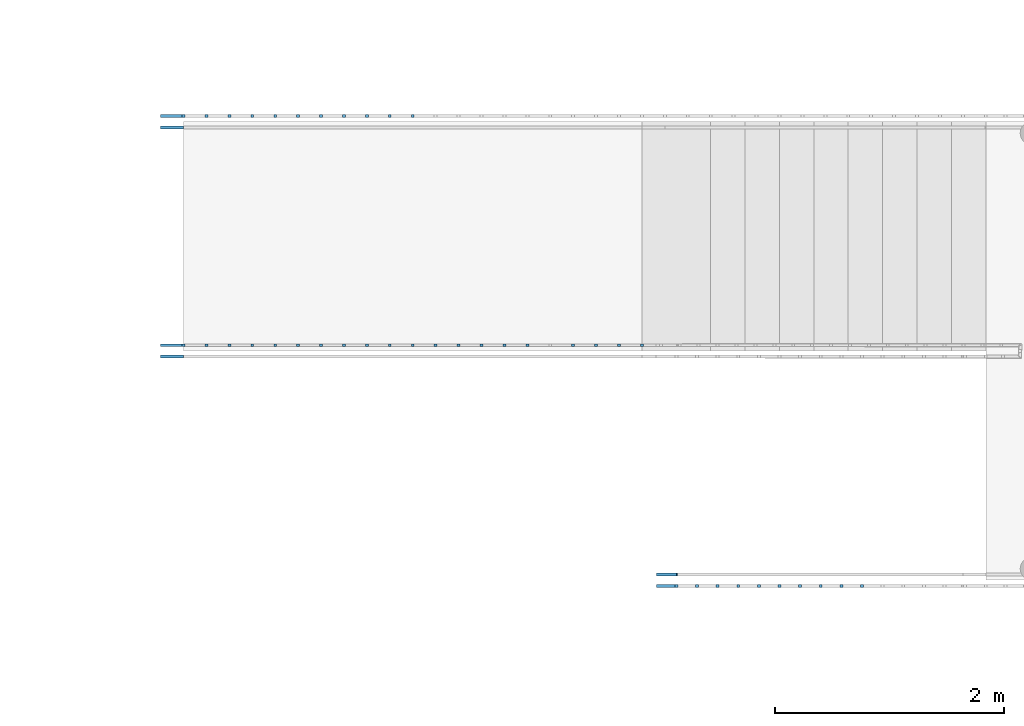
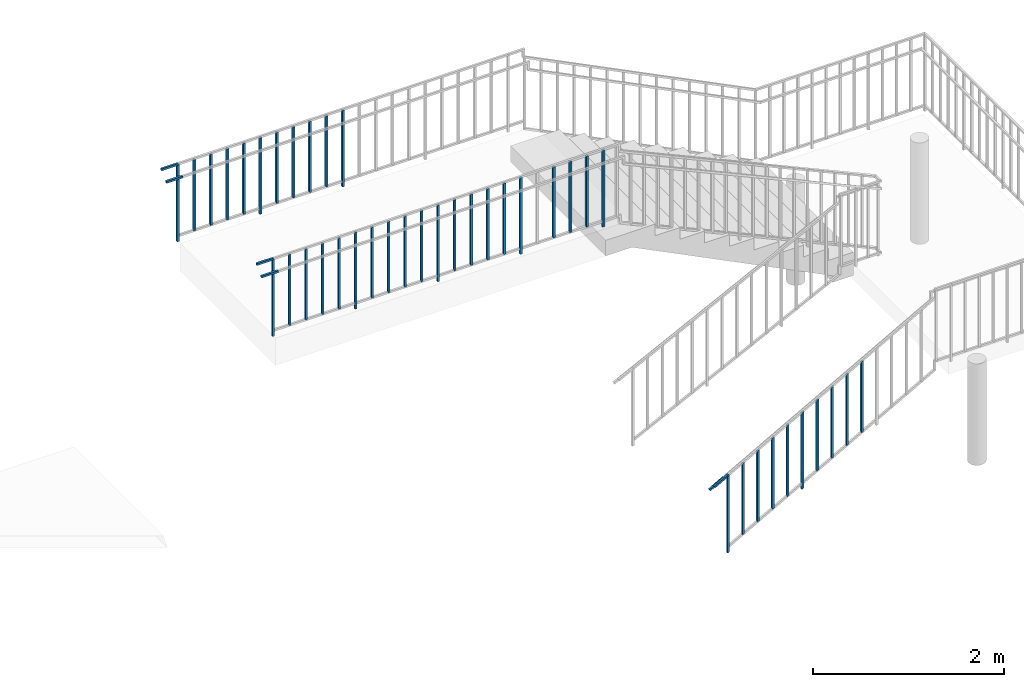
# One storey, part 16 of 19: 47 building element parts, 2 elements without a shape of their own.
"""IFC4 building model written with IfcOpenShell, lengths in millimetres."""

from ifc_helpers import new_model, entity, si_unit, converted_unit, derived_unit, direction, frame, origin_with_axes, place, context, subcontext, project, spatial, triangles, material, element, aggregate, save


model = new_model("IFC4")

# Units and contexts
model_context = context("Model", 3, precision=1e-05, world=origin_with_axes(), true_north=direction((0.0, 1.0)))
body_context = subcontext(model_context, "Body", "Model", "MODEL_VIEW")
ifc_project = project(units=[si_unit("LENGTHUNIT", "METRE", prefix="MILLI"), si_unit("AREAUNIT", "SQUARE_METRE"), si_unit("VOLUMEUNIT", "CUBIC_METRE"), converted_unit("PLANEANGLEUNIT", "DEGREE", entity("IfcLengthMeasure", 0.017453), si_unit("PLANEANGLEUNIT", "RADIAN"), dimensions=[0, 0, 0, 0, 0, 0, 0]), si_unit("SOLIDANGLEUNIT", "STERADIAN"), si_unit("MASSUNIT", "GRAM"), si_unit("TIMEUNIT", "SECOND"), si_unit("THERMODYNAMICTEMPERATUREUNIT", "DEGREE_CELSIUS"), si_unit("LUMINOUSINTENSITYUNIT", "LUMEN"), si_unit("POWERUNIT", "WATT"), derived_unit("THERMALTRANSMITTANCEUNIT", [(si_unit("POWERUNIT", "WATT"), 1), (si_unit("THERMODYNAMICTEMPERATUREUNIT", "KELVIN"), -1), (si_unit("AREAUNIT", "SQUARE_METRE"), -1)])], contexts=[model_context])

# Site, building, storey
site_placement = place(None, origin_with_axes())
site = spatial("IfcSite", under=ifc_project, at=site_placement, Name="Default Site", CompositionType="ELEMENT")
building_placement = place(site_placement, origin_with_axes())
building = spatial("IfcBuilding", under=site, at=building_placement, Name="Default Building", CompositionType="ELEMENT")
storey_placement = place(building_placement, frame((0.0, 0.0, 3000.0), z_axis=(0.0, 0.0, 1.0), x_axis=(1.0, 0.0, 0.0)))
storey = spatial("IfcBuildingStorey", under=building, at=storey_placement, Name="EG - Story", CompositionType="ELEMENT", Elevation=3000.0)

# Railing, building element parts
railing_1_placement = place(storey_placement, origin_with_axes())
railing_1 = element("IfcRailing", 1, at=railing_1_placement, inside=storey, Name="Geländer - 001", PredefinedType="NOTDEFINED")
ifc_material = material(Name="Bekleidung")
building_element_part_1_placement = place(railing_1_placement, frame((84051.391327, -29589.262838, -3000.0), z_axis=(0.0, 0.0, 1.0), x_axis=(1.0, 0.0, 0.0)))
building_element_part_1 = element("IfcBuildingElementPart", 2, at=building_element_part_1_placement, material=ifc_material, Name="Bekleidung", PredefinedType="NOTDEFINED", context=body_context, shape_type="Tessellation", body=[
    triangles([(-312.499, 62.5, 3000.0), (-312.499, 37.5, 3000.0), (-312.499, 37.5, 3982.708), (-312.499, 62.5, 3982.708), (-287.499, 62.5, 3000.0), (-287.499, 37.5, 3000.0), (-287.499, 37.5, 3977.292), (-287.499, 62.5, 3977.292)], [[1, 2, 3], [1, 3, 4], [1, 5, 6], [1, 6, 2], [2, 6, 7], [2, 7, 3], [4, 3, 7], [4, 7, 8], [5, 1, 4], [5, 4, 8], [6, 5, 8], [6, 8, 7]], closed=False),
])
building_element_part_2_placement = place(railing_1_placement, frame((84051.391327, -29589.262838, -3000.0), z_axis=(0.0, 0.0, 1.0), x_axis=(1.0, 0.0, 0.0)))
building_element_part_2 = element("IfcBuildingElementPart", 3, at=building_element_part_2_placement, material=ifc_material, Name="Bekleidung", PredefinedType="NOTDEFINED", context=body_context, shape_type="Tessellation", body=[
    triangles([(-4312.499, 62.5, 3000.0), (-4312.499, 37.5, 3000.0), (-4312.499, 37.5, 3980.0), (-4312.499, 62.5, 3980.0), (-4287.499, 62.5, 3000.0), (-4287.499, 37.5, 3000.0), (-4287.499, 37.5, 3980.0), (-4287.499, 62.5, 3980.0)], [[1, 2, 3], [1, 3, 4], [1, 5, 6], [1, 6, 2], [2, 6, 7], [2, 7, 3], [4, 3, 7], [4, 7, 8], [5, 1, 4], [5, 4, 8], [6, 5, 8], [6, 8, 7]], closed=False),
])
building_element_part_3_placement = place(railing_1_placement, frame((84051.391327, -29589.262838, -3000.0), z_axis=(0.0, 0.0, 1.0), x_axis=(1.0, 0.0, 0.0)))
building_element_part_3 = element("IfcBuildingElementPart", 4, at=building_element_part_3_placement, material=ifc_material, Name="Bekleidung", PredefinedType="NOTDEFINED", context=body_context, shape_type="Tessellation", body=[
    triangles([(-4299.999, -37.499, 3900.0), (-4299.999, -37.499, 3875.0), (-4499.999, -37.499, 3875.0), (-4499.999, -37.499, 3900.0), (-4299.999, -62.499, 3900.0), (-4299.999, -62.499, 3875.0), (-4499.999, -62.499, 3875.0), (-4499.999, -62.499, 3900.0)], [[1, 2, 3], [1, 3, 4], [1, 5, 6], [1, 6, 2], [2, 6, 7], [2, 7, 3], [4, 3, 7], [4, 7, 8], [5, 1, 4], [5, 4, 8], [6, 5, 8], [6, 8, 7]], closed=False),
])
building_element_part_4_placement = place(railing_1_placement, frame((84051.391327, -29589.262838, -3000.0), z_axis=(0.0, 0.0, 1.0), x_axis=(1.0, 0.0, 0.0)))
building_element_part_4 = element("IfcBuildingElementPart", 5, at=building_element_part_4_placement, material=ifc_material, Name="Bekleidung", PredefinedType="NOTDEFINED", context=body_context, shape_type="Tessellation", body=[
    triangles([(-4299.999, 62.5, 4000.0), (-4299.999, 62.5, 3975.0), (-4499.999, 62.5, 3975.0), (-4499.999, 62.5, 4000.0), (-4299.999, 37.5, 4000.0), (-4299.999, 37.5, 3975.0), (-4499.999, 37.5, 3975.0), (-4499.999, 37.5, 4000.0)], [[1, 2, 3], [1, 3, 4], [1, 5, 6], [1, 6, 2], [2, 6, 7], [2, 7, 3], [4, 3, 7], [4, 7, 8], [5, 1, 4], [5, 4, 8], [6, 5, 8], [6, 8, 7]], closed=False),
])
building_element_part_5_placement = place(railing_1_placement, frame((84051.391327, -29589.262838, -3000.0), z_axis=(0.0, 0.0, 1.0), x_axis=(1.0, 0.0, 0.0)))
building_element_part_5 = element("IfcBuildingElementPart", 6, at=building_element_part_5_placement, material=ifc_material, Name="Bekleidung", PredefinedType="NOTDEFINED", context=body_context, shape_type="Tessellation", body=[
    triangles([(-512.499, 62.5, 3070.0), (-512.499, 37.5, 3070.0), (-512.499, 37.5, 3977.5), (-512.499, 62.5, 3977.5), (-487.499, 62.5, 3070.0), (-487.499, 37.5, 3070.0), (-487.499, 37.5, 3977.5), (-487.499, 62.5, 3977.5)], [[1, 2, 3], [1, 3, 4], [1, 5, 6], [1, 6, 2], [2, 6, 7], [2, 7, 3], [4, 3, 7], [4, 7, 8], [5, 1, 4], [5, 4, 8], [6, 5, 8], [6, 8, 7]], closed=False),
])
building_element_part_6_placement = place(railing_1_placement, frame((84051.391327, -29589.262838, -3000.0), z_axis=(0.0, 0.0, 1.0), x_axis=(1.0, 0.0, 0.0)))
building_element_part_6 = element("IfcBuildingElementPart", 7, at=building_element_part_6_placement, material=ifc_material, Name="Bekleidung", PredefinedType="NOTDEFINED", context=body_context, shape_type="Tessellation", body=[
    triangles([(-712.499, 62.5, 3070.0), (-712.499, 37.5, 3070.0), (-712.499, 37.5, 3977.5), (-712.499, 62.5, 3977.5), (-687.499, 62.5, 3070.0), (-687.499, 37.5, 3070.0), (-687.499, 37.5, 3977.5), (-687.499, 62.5, 3977.5)], [[1, 2, 3], [1, 3, 4], [1, 5, 6], [1, 6, 2], [2, 6, 7], [2, 7, 3], [4, 3, 7], [4, 7, 8], [5, 1, 4], [5, 4, 8], [6, 5, 8], [6, 8, 7]], closed=False),
])
building_element_part_7_placement = place(railing_1_placement, frame((84051.391327, -29589.262838, -3000.0), z_axis=(0.0, 0.0, 1.0), x_axis=(1.0, 0.0, 0.0)))
building_element_part_7 = element("IfcBuildingElementPart", 8, at=building_element_part_7_placement, material=ifc_material, Name="Bekleidung", PredefinedType="NOTDEFINED", context=body_context, shape_type="Tessellation", body=[
    triangles([(-912.499, 62.5, 3070.0), (-912.499, 37.5, 3070.0), (-912.499, 37.5, 3977.5), (-912.499, 62.5, 3977.5), (-887.499, 62.5, 3070.0), (-887.499, 37.5, 3070.0), (-887.499, 37.5, 3977.5), (-887.499, 62.5, 3977.5)], [[1, 2, 3], [1, 3, 4], [1, 5, 6], [1, 6, 2], [2, 6, 7], [2, 7, 3], [4, 3, 7], [4, 7, 8], [5, 1, 4], [5, 4, 8], [6, 5, 8], [6, 8, 7]], closed=False),
])
building_element_part_8_placement = place(railing_1_placement, frame((84051.391327, -29589.262838, -3000.0), z_axis=(0.0, 0.0, 1.0), x_axis=(1.0, 0.0, 0.0)))
building_element_part_8 = element("IfcBuildingElementPart", 9, at=building_element_part_8_placement, material=ifc_material, Name="Bekleidung", PredefinedType="NOTDEFINED", context=body_context, shape_type="Tessellation", body=[
    triangles([(-1312.499, 62.5, 3000.0), (-1312.499, 37.5, 3000.0), (-1312.499, 37.5, 3980.0), (-1312.499, 62.5, 3980.0), (-1287.499, 62.5, 3000.0), (-1287.499, 37.5, 3000.0), (-1287.499, 37.5, 3980.0), (-1287.499, 62.5, 3980.0)], [[1, 2, 3], [1, 3, 4], [1, 5, 6], [1, 6, 2], [2, 6, 7], [2, 7, 3], [4, 3, 7], [4, 7, 8], [5, 1, 4], [5, 4, 8], [6, 5, 8], [6, 8, 7]], closed=False),
])
building_element_part_9_placement = place(railing_1_placement, frame((84051.391327, -29589.262838, -3000.0), z_axis=(0.0, 0.0, 1.0), x_axis=(1.0, 0.0, 0.0)))
building_element_part_9 = element("IfcBuildingElementPart", 10, at=building_element_part_9_placement, material=ifc_material, Name="Bekleidung", PredefinedType="NOTDEFINED", context=body_context, shape_type="Tessellation", body=[
    triangles([(-1512.499, 62.5, 3070.0), (-1512.499, 37.5, 3070.0), (-1512.499, 37.5, 3977.5), (-1512.499, 62.5, 3977.5), (-1487.499, 62.5, 3070.0), (-1487.499, 37.5, 3070.0), (-1487.499, 37.5, 3977.5), (-1487.499, 62.5, 3977.5)], [[1, 2, 3], [1, 3, 4], [1, 5, 6], [1, 6, 2], [2, 6, 7], [2, 7, 3], [4, 3, 7], [4, 7, 8], [5, 1, 4], [5, 4, 8], [6, 5, 8], [6, 8, 7]], closed=False),
])
building_element_part_10_placement = place(railing_1_placement, frame((84051.391327, -29589.262838, -3000.0), z_axis=(0.0, 0.0, 1.0), x_axis=(1.0, 0.0, 0.0)))
building_element_part_10 = element("IfcBuildingElementPart", 11, at=building_element_part_10_placement, material=ifc_material, Name="Bekleidung", PredefinedType="NOTDEFINED", context=body_context, shape_type="Tessellation", body=[
    triangles([(-1712.499, 62.5, 3070.0), (-1712.499, 37.5, 3070.0), (-1712.499, 37.5, 3977.5), (-1712.499, 62.5, 3977.5), (-1687.499, 62.5, 3070.0), (-1687.499, 37.5, 3070.0), (-1687.499, 37.5, 3977.5), (-1687.499, 62.5, 3977.5)], [[1, 2, 3], [1, 3, 4], [1, 5, 6], [1, 6, 2], [2, 6, 7], [2, 7, 3], [4, 3, 7], [4, 7, 8], [5, 1, 4], [5, 4, 8], [6, 5, 8], [6, 8, 7]], closed=False),
])
building_element_part_11_placement = place(railing_1_placement, frame((84051.391327, -29589.262838, -3000.0), z_axis=(0.0, 0.0, 1.0), x_axis=(1.0, 0.0, 0.0)))
building_element_part_11 = element("IfcBuildingElementPart", 12, at=building_element_part_11_placement, material=ifc_material, Name="Bekleidung", PredefinedType="NOTDEFINED", context=body_context, shape_type="Tessellation", body=[
    triangles([(-1912.499, 62.5, 3070.0), (-1912.499, 37.5, 3070.0), (-1912.499, 37.5, 3977.5), (-1912.499, 62.5, 3977.5), (-1887.499, 62.5, 3070.0), (-1887.499, 37.5, 3070.0), (-1887.499, 37.5, 3977.5), (-1887.499, 62.5, 3977.5)], [[1, 2, 3], [1, 3, 4], [1, 5, 6], [1, 6, 2], [2, 6, 7], [2, 7, 3], [4, 3, 7], [4, 7, 8], [5, 1, 4], [5, 4, 8], [6, 5, 8], [6, 8, 7]], closed=False),
])
building_element_part_12_placement = place(railing_1_placement, frame((84051.391327, -29589.262838, -3000.0), z_axis=(0.0, 0.0, 1.0), x_axis=(1.0, 0.0, 0.0)))
building_element_part_12 = element("IfcBuildingElementPart", 13, at=building_element_part_12_placement, material=ifc_material, Name="Bekleidung", PredefinedType="NOTDEFINED", context=body_context, shape_type="Tessellation", body=[
    triangles([(-2112.499, 62.5, 3070.0), (-2112.499, 37.5, 3070.0), (-2112.499, 37.5, 3977.5), (-2112.499, 62.5, 3977.5), (-2087.499, 62.5, 3070.0), (-2087.499, 37.5, 3070.0), (-2087.499, 37.5, 3977.5), (-2087.499, 62.5, 3977.5)], [[1, 2, 3], [1, 3, 4], [1, 5, 6], [1, 6, 2], [2, 6, 7], [2, 7, 3], [4, 3, 7], [4, 7, 8], [5, 1, 4], [5, 4, 8], [6, 5, 8], [6, 8, 7]], closed=False),
])
building_element_part_13_placement = place(railing_1_placement, frame((84051.391327, -29589.262838, -3000.0), z_axis=(0.0, 0.0, 1.0), x_axis=(1.0, 0.0, 0.0)))
building_element_part_13 = element("IfcBuildingElementPart", 14, at=building_element_part_13_placement, material=ifc_material, Name="Bekleidung", PredefinedType="NOTDEFINED", context=body_context, shape_type="Tessellation", body=[
    triangles([(-2312.499, 62.5, 3000.0), (-2312.499, 37.5, 3000.0), (-2312.499, 37.5, 3980.0), (-2312.499, 62.5, 3980.0), (-2287.499, 62.5, 3000.0), (-2287.499, 37.5, 3000.0), (-2287.499, 37.5, 3980.0), (-2287.499, 62.5, 3980.0)], [[1, 2, 3], [1, 3, 4], [1, 5, 6], [1, 6, 2], [2, 6, 7], [2, 7, 3], [4, 3, 7], [4, 7, 8], [5, 1, 4], [5, 4, 8], [6, 5, 8], [6, 8, 7]], closed=False),
])
building_element_part_14_placement = place(railing_1_placement, frame((84051.391327, -29589.262838, -3000.0), z_axis=(0.0, 0.0, 1.0), x_axis=(1.0, 0.0, 0.0)))
building_element_part_14 = element("IfcBuildingElementPart", 15, at=building_element_part_14_placement, material=ifc_material, Name="Bekleidung", PredefinedType="NOTDEFINED", context=body_context, shape_type="Tessellation", body=[
    triangles([(-2512.499, 62.5, 3070.0), (-2512.499, 37.5, 3070.0), (-2512.499, 37.5, 3977.5), (-2512.499, 62.5, 3977.5), (-2487.499, 62.5, 3070.0), (-2487.499, 37.5, 3070.0), (-2487.499, 37.5, 3977.5), (-2487.499, 62.5, 3977.5)], [[1, 2, 3], [1, 3, 4], [1, 5, 6], [1, 6, 2], [2, 6, 7], [2, 7, 3], [4, 3, 7], [4, 7, 8], [5, 1, 4], [5, 4, 8], [6, 5, 8], [6, 8, 7]], closed=False),
])
building_element_part_15_placement = place(railing_1_placement, frame((84051.391327, -29589.262838, -3000.0), z_axis=(0.0, 0.0, 1.0), x_axis=(1.0, 0.0, 0.0)))
building_element_part_15 = element("IfcBuildingElementPart", 16, at=building_element_part_15_placement, material=ifc_material, Name="Bekleidung", PredefinedType="NOTDEFINED", context=body_context, shape_type="Tessellation", body=[
    triangles([(-2712.499, 62.5, 3070.0), (-2712.499, 37.5, 3070.0), (-2712.499, 37.5, 3977.5), (-2712.499, 62.5, 3977.5), (-2687.499, 62.5, 3070.0), (-2687.499, 37.5, 3070.0), (-2687.499, 37.5, 3977.5), (-2687.499, 62.5, 3977.5)], [[1, 2, 3], [1, 3, 4], [1, 5, 6], [1, 6, 2], [2, 6, 7], [2, 7, 3], [4, 3, 7], [4, 7, 8], [5, 1, 4], [5, 4, 8], [6, 5, 8], [6, 8, 7]], closed=False),
])
building_element_part_16_placement = place(railing_1_placement, frame((84051.391327, -29589.262838, -3000.0), z_axis=(0.0, 0.0, 1.0), x_axis=(1.0, 0.0, 0.0)))
building_element_part_16 = element("IfcBuildingElementPart", 17, at=building_element_part_16_placement, material=ifc_material, Name="Bekleidung", PredefinedType="NOTDEFINED", context=body_context, shape_type="Tessellation", body=[
    triangles([(-2912.499, 62.5, 3070.0), (-2912.499, 37.5, 3070.0), (-2912.499, 37.5, 3977.5), (-2912.499, 62.5, 3977.5), (-2887.499, 62.5, 3070.0), (-2887.499, 37.5, 3070.0), (-2887.499, 37.5, 3977.5), (-2887.499, 62.5, 3977.5)], [[1, 2, 3], [1, 3, 4], [1, 5, 6], [1, 6, 2], [2, 6, 7], [2, 7, 3], [4, 3, 7], [4, 7, 8], [5, 1, 4], [5, 4, 8], [6, 5, 8], [6, 8, 7]], closed=False),
])
building_element_part_17_placement = place(railing_1_placement, frame((84051.391327, -29589.262838, -3000.0), z_axis=(0.0, 0.0, 1.0), x_axis=(1.0, 0.0, 0.0)))
building_element_part_17 = element("IfcBuildingElementPart", 18, at=building_element_part_17_placement, material=ifc_material, Name="Bekleidung", PredefinedType="NOTDEFINED", context=body_context, shape_type="Tessellation", body=[
    triangles([(-3112.499, 62.5, 3070.0), (-3112.499, 37.5, 3070.0), (-3112.499, 37.5, 3977.5), (-3112.499, 62.5, 3977.5), (-3087.499, 62.5, 3070.0), (-3087.499, 37.5, 3070.0), (-3087.499, 37.5, 3977.5), (-3087.499, 62.5, 3977.5)], [[1, 2, 3], [1, 3, 4], [1, 5, 6], [1, 6, 2], [2, 6, 7], [2, 7, 3], [4, 3, 7], [4, 7, 8], [5, 1, 4], [5, 4, 8], [6, 5, 8], [6, 8, 7]], closed=False),
])
building_element_part_18_placement = place(railing_1_placement, frame((84051.391327, -29589.262838, -3000.0), z_axis=(0.0, 0.0, 1.0), x_axis=(1.0, 0.0, 0.0)))
building_element_part_18 = element("IfcBuildingElementPart", 19, at=building_element_part_18_placement, material=ifc_material, Name="Bekleidung", PredefinedType="NOTDEFINED", context=body_context, shape_type="Tessellation", body=[
    triangles([(-3312.499, 62.5, 3000.0), (-3312.499, 37.5, 3000.0), (-3312.499, 37.5, 3980.0), (-3312.499, 62.5, 3980.0), (-3287.499, 62.5, 3000.0), (-3287.499, 37.5, 3000.0), (-3287.499, 37.5, 3980.0), (-3287.499, 62.5, 3980.0)], [[1, 2, 3], [1, 3, 4], [1, 5, 6], [1, 6, 2], [2, 6, 7], [2, 7, 3], [4, 3, 7], [4, 7, 8], [5, 1, 4], [5, 4, 8], [6, 5, 8], [6, 8, 7]], closed=False),
])
building_element_part_19_placement = place(railing_1_placement, frame((84051.391327, -29589.262838, -3000.0), z_axis=(0.0, 0.0, 1.0), x_axis=(1.0, 0.0, 0.0)))
building_element_part_19 = element("IfcBuildingElementPart", 20, at=building_element_part_19_placement, material=ifc_material, Name="Bekleidung", PredefinedType="NOTDEFINED", context=body_context, shape_type="Tessellation", body=[
    triangles([(-3512.499, 62.5, 3070.0), (-3512.499, 37.5, 3070.0), (-3512.499, 37.5, 3977.5), (-3512.499, 62.5, 3977.5), (-3487.499, 62.5, 3070.0), (-3487.499, 37.5, 3070.0), (-3487.499, 37.5, 3977.5), (-3487.499, 62.5, 3977.5)], [[1, 2, 3], [1, 3, 4], [1, 5, 6], [1, 6, 2], [2, 6, 7], [2, 7, 3], [4, 3, 7], [4, 7, 8], [5, 1, 4], [5, 4, 8], [6, 5, 8], [6, 8, 7]], closed=False),
])
building_element_part_20_placement = place(railing_1_placement, frame((84051.391327, -29589.262838, -3000.0), z_axis=(0.0, 0.0, 1.0), x_axis=(1.0, 0.0, 0.0)))
building_element_part_20 = element("IfcBuildingElementPart", 21, at=building_element_part_20_placement, material=ifc_material, Name="Bekleidung", PredefinedType="NOTDEFINED", context=body_context, shape_type="Tessellation", body=[
    triangles([(-3712.499, 62.5, 3070.0), (-3712.499, 37.5, 3070.0), (-3712.499, 37.5, 3977.5), (-3712.499, 62.5, 3977.5), (-3687.499, 62.5, 3070.0), (-3687.499, 37.5, 3070.0), (-3687.499, 37.5, 3977.5), (-3687.499, 62.5, 3977.5)], [[1, 2, 3], [1, 3, 4], [1, 5, 6], [1, 6, 2], [2, 6, 7], [2, 7, 3], [4, 3, 7], [4, 7, 8], [5, 1, 4], [5, 4, 8], [6, 5, 8], [6, 8, 7]], closed=False),
])
building_element_part_21_placement = place(railing_1_placement, frame((84051.391327, -29589.262838, -3000.0), z_axis=(0.0, 0.0, 1.0), x_axis=(1.0, 0.0, 0.0)))
building_element_part_21 = element("IfcBuildingElementPart", 22, at=building_element_part_21_placement, material=ifc_material, Name="Bekleidung", PredefinedType="NOTDEFINED", context=body_context, shape_type="Tessellation", body=[
    triangles([(-3912.499, 62.5, 3070.0), (-3912.499, 37.5, 3070.0), (-3912.499, 37.5, 3977.5), (-3912.499, 62.5, 3977.5), (-3887.499, 62.5, 3070.0), (-3887.499, 37.5, 3070.0), (-3887.499, 37.5, 3977.5), (-3887.499, 62.5, 3977.5)], [[1, 2, 3], [1, 3, 4], [1, 5, 6], [1, 6, 2], [2, 6, 7], [2, 7, 3], [4, 3, 7], [4, 7, 8], [5, 1, 4], [5, 4, 8], [6, 5, 8], [6, 8, 7]], closed=False),
])
building_element_part_22_placement = place(railing_1_placement, frame((84051.391327, -29589.262838, -3000.0), z_axis=(0.0, 0.0, 1.0), x_axis=(1.0, 0.0, 0.0)))
building_element_part_22 = element("IfcBuildingElementPart", 23, at=building_element_part_22_placement, material=ifc_material, Name="Bekleidung", PredefinedType="NOTDEFINED", context=body_context, shape_type="Tessellation", body=[
    triangles([(-4112.499, 62.5, 3070.0), (-4112.499, 37.5, 3070.0), (-4112.499, 37.5, 3977.5), (-4112.499, 62.5, 3977.5), (-4087.499, 62.5, 3070.0), (-4087.499, 37.5, 3070.0), (-4087.499, 37.5, 3977.5), (-4087.499, 62.5, 3977.5)], [[1, 2, 3], [1, 3, 4], [1, 5, 6], [1, 6, 2], [2, 6, 7], [2, 7, 3], [4, 3, 7], [4, 7, 8], [5, 1, 4], [5, 4, 8], [6, 5, 8], [6, 8, 7]], closed=False),
])
aggregate(railing_1, [building_element_part_1, building_element_part_2, building_element_part_3, building_element_part_4, building_element_part_5, building_element_part_6, building_element_part_7, building_element_part_8, building_element_part_9, building_element_part_10, building_element_part_11, building_element_part_12, building_element_part_13, building_element_part_14, building_element_part_15, building_element_part_16, building_element_part_17, building_element_part_18, building_element_part_19, building_element_part_20, building_element_part_21, building_element_part_22])

railing_2_placement = place(storey_placement, origin_with_axes())
railing_2 = element("IfcRailing", 24, at=railing_2_placement, inside=storey, Name="Geländer - 001", PredefinedType="NOTDEFINED")
building_element_part_23_placement = place(railing_2_placement, frame((84051.391327, -31589.262838, -3000.0), z_axis=(0.0, 0.0, 1.0), x_axis=(1.0, 0.0, 0.0)))
building_element_part_23 = element("IfcBuildingElementPart", 25, at=building_element_part_23_placement, material=ifc_material, Name="Bekleidung", PredefinedType="NOTDEFINED", context=body_context, shape_type="Tessellation", body=[
    triangles([(12.5, -62.499, 6.944), (12.5, -37.499, 6.944), (12.5, -37.499, 986.944), (12.5, -62.499, 986.944), (-12.499, -62.499, -6.943), (-12.499, -37.499, -6.943), (-12.499, -37.499, 973.056), (-12.499, -62.499, 973.056)], [[1, 2, 3], [1, 3, 4], [1, 5, 6], [1, 6, 2], [2, 6, 7], [2, 7, 3], [4, 3, 7], [4, 7, 8], [5, 1, 4], [5, 4, 8], [6, 5, 8], [6, 8, 7]], closed=False),
])
building_element_part_24_placement = place(railing_2_placement, frame((84051.391327, -31589.262838, -3000.0), z_axis=(0.0, 0.0, 1.0), x_axis=(1.0, 0.0, 0.0)))
building_element_part_24 = element("IfcBuildingElementPart", 26, at=building_element_part_24_placement, material=ifc_material, Name="Bekleidung", PredefinedType="NOTDEFINED", context=body_context, shape_type="Tessellation", body=[
    triangles([(0.0, 62.5, 900.0), (12.141, 62.5, 878.146), (-162.689, 62.5, 781.017), (-174.83, 62.5, 802.871), (0.0, 37.5, 900.0), (12.141, 37.5, 878.146), (-162.689, 37.5, 781.017), (-174.83, 37.5, 802.871)], [[1, 2, 3], [1, 3, 4], [1, 5, 6], [1, 6, 2], [2, 6, 7], [2, 7, 3], [4, 3, 7], [4, 7, 8], [5, 1, 4], [5, 4, 8], [6, 5, 8], [6, 8, 7]], closed=False),
])
building_element_part_25_placement = place(railing_2_placement, frame((84051.391327, -31589.262838, -3000.0), z_axis=(0.0, 0.0, 1.0), x_axis=(1.0, 0.0, 0.0)))
building_element_part_25 = element("IfcBuildingElementPart", 27, at=building_element_part_25_placement, material=ifc_material, Name="Bekleidung", PredefinedType="NOTDEFINED", context=body_context, shape_type="Tessellation", body=[
    triangles([(0.0, -37.499, 1000.0), (12.141, -37.499, 978.146), (-162.689, -37.499, 881.017), (-174.83, -37.499, 902.871), (0.0, -62.499, 1000.0), (12.141, -62.499, 978.146), (-162.689, -62.499, 881.017), (-174.83, -62.499, 902.871)], [[1, 2, 3], [1, 3, 4], [1, 5, 6], [1, 6, 2], [2, 6, 7], [2, 7, 3], [4, 3, 7], [4, 7, 8], [5, 1, 4], [5, 4, 8], [6, 5, 8], [6, 8, 7]], closed=False),
])
building_element_part_26_placement = place(railing_2_placement, frame((84051.391327, -31589.262838, -3000.0), z_axis=(0.0, 0.0, 1.0), x_axis=(1.0, 0.0, 0.0)))
building_element_part_26 = element("IfcBuildingElementPart", 28, at=building_element_part_26_placement, material=ifc_material, Name="Bekleidung", PredefinedType="NOTDEFINED", context=body_context, shape_type="Tessellation", body=[
    triangles([(-4312.499, 4062.5, 3000.0), (-4312.499, 4037.5, 3000.0), (-4312.499, 4037.5, 3980.0), (-4312.499, 4062.5, 3980.0), (-4287.499, 4062.5, 3000.0), (-4287.499, 4037.5, 3000.0), (-4287.499, 4037.5, 3980.0), (-4287.499, 4062.5, 3980.0)], [[1, 2, 3], [1, 3, 4], [1, 5, 6], [1, 6, 2], [2, 6, 7], [2, 7, 3], [4, 3, 7], [4, 7, 8], [5, 1, 4], [5, 4, 8], [6, 5, 8], [6, 8, 7]], closed=False),
])
building_element_part_27_placement = place(railing_2_placement, frame((84051.391327, -31589.262838, -3000.0), z_axis=(0.0, 0.0, 1.0), x_axis=(1.0, 0.0, 0.0)))
building_element_part_27 = element("IfcBuildingElementPart", 29, at=building_element_part_27_placement, material=ifc_material, Name="Bekleidung", PredefinedType="NOTDEFINED", context=body_context, shape_type="Tessellation", body=[
    triangles([(-4299.999, 3962.5, 3900.0), (-4299.999, 3962.5, 3875.0), (-4499.999, 3962.5, 3875.0), (-4499.999, 3962.5, 3900.0), (-4299.999, 3937.5, 3900.0), (-4299.999, 3937.5, 3875.0), (-4499.999, 3937.5, 3875.0), (-4499.999, 3937.5, 3900.0)], [[1, 2, 3], [1, 3, 4], [1, 5, 6], [1, 6, 2], [2, 6, 7], [2, 7, 3], [4, 3, 7], [4, 7, 8], [5, 1, 4], [5, 4, 8], [6, 5, 8], [6, 8, 7]], closed=False),
])
building_element_part_28_placement = place(railing_2_placement, frame((84051.391327, -31589.262838, -3000.0), z_axis=(0.0, 0.0, 1.0), x_axis=(1.0, 0.0, 0.0)))
building_element_part_28 = element("IfcBuildingElementPart", 30, at=building_element_part_28_placement, material=ifc_material, Name="Bekleidung", PredefinedType="NOTDEFINED", context=body_context, shape_type="Tessellation", body=[
    triangles([(-4299.999, 4062.5, 4000.0), (-4299.999, 4062.5, 3975.0), (-4499.999, 4062.5, 3975.0), (-4499.999, 4062.5, 4000.0), (-4299.999, 4037.5, 4000.0), (-4299.999, 4037.5, 3975.0), (-4499.999, 4037.5, 3975.0), (-4499.999, 4037.5, 4000.0)], [[1, 2, 3], [1, 3, 4], [1, 5, 6], [1, 6, 2], [2, 6, 7], [2, 7, 3], [4, 3, 7], [4, 7, 8], [5, 1, 4], [5, 4, 8], [6, 5, 8], [6, 8, 7]], closed=False),
])
building_element_part_29_placement = place(railing_2_placement, frame((84051.391327, -31589.262838, -3000.0), z_axis=(0.0, 0.0, 1.0), x_axis=(1.0, 0.0, 0.0)))
building_element_part_29 = element("IfcBuildingElementPart", 31, at=building_element_part_29_placement, material=ifc_material, Name="Bekleidung", PredefinedType="NOTDEFINED", context=body_context, shape_type="Tessellation", body=[
    triangles([(192.5, -62.499, 176.944), (192.5, -37.499, 176.944), (192.5, -37.499, 1084.444), (192.5, -62.499, 1084.444), (167.5, -62.499, 163.056), (167.5, -37.499, 163.056), (167.5, -37.499, 1070.556), (167.5, -62.499, 1070.556)], [[1, 2, 3], [1, 3, 4], [1, 5, 6], [1, 6, 2], [2, 6, 7], [2, 7, 3], [4, 3, 7], [4, 7, 8], [5, 1, 4], [5, 4, 8], [6, 5, 8], [6, 8, 7]], closed=False),
])
building_element_part_30_placement = place(railing_2_placement, frame((84051.391327, -31589.262838, -3000.0), z_axis=(0.0, 0.0, 1.0), x_axis=(1.0, 0.0, 0.0)))
building_element_part_30 = element("IfcBuildingElementPart", 32, at=building_element_part_30_placement, material=ifc_material, Name="Bekleidung", PredefinedType="NOTDEFINED", context=body_context, shape_type="Tessellation", body=[
    triangles([(372.5, -62.499, 276.944), (372.5, -37.499, 276.944), (372.5, -37.499, 1184.444), (372.5, -62.499, 1184.444), (347.5, -62.499, 263.056), (347.5, -37.499, 263.056), (347.5, -37.499, 1170.556), (347.5, -62.499, 1170.556)], [[1, 2, 3], [1, 3, 4], [1, 5, 6], [1, 6, 2], [2, 6, 7], [2, 7, 3], [4, 3, 7], [4, 7, 8], [5, 1, 4], [5, 4, 8], [6, 5, 8], [6, 8, 7]], closed=False),
])
building_element_part_31_placement = place(railing_2_placement, frame((84051.391327, -31589.262838, -3000.0), z_axis=(0.0, 0.0, 1.0), x_axis=(1.0, 0.0, 0.0)))
building_element_part_31 = element("IfcBuildingElementPart", 33, at=building_element_part_31_placement, material=ifc_material, Name="Bekleidung", PredefinedType="NOTDEFINED", context=body_context, shape_type="Tessellation", body=[
    triangles([(552.5, -62.499, 376.944), (552.5, -37.499, 376.944), (552.5, -37.499, 1284.444), (552.5, -62.499, 1284.444), (527.5, -62.499, 363.056), (527.5, -37.499, 363.056), (527.5, -37.499, 1270.556), (527.5, -62.499, 1270.556)], [[1, 2, 3], [1, 3, 4], [1, 5, 6], [1, 6, 2], [2, 6, 7], [2, 7, 3], [4, 3, 7], [4, 7, 8], [5, 1, 4], [5, 4, 8], [6, 5, 8], [6, 8, 7]], closed=False),
])
building_element_part_32_placement = place(railing_2_placement, frame((84051.391327, -31589.262838, -3000.0), z_axis=(0.0, 0.0, 1.0), x_axis=(1.0, 0.0, 0.0)))
building_element_part_32 = element("IfcBuildingElementPart", 34, at=building_element_part_32_placement, material=ifc_material, Name="Bekleidung", PredefinedType="NOTDEFINED", context=body_context, shape_type="Tessellation", body=[
    triangles([(732.5, -62.499, 476.944), (732.5, -37.499, 476.944), (732.5, -37.499, 1384.444), (732.5, -62.499, 1384.444), (707.5, -62.499, 463.056), (707.5, -37.499, 463.056), (707.5, -37.499, 1370.556), (707.5, -62.499, 1370.556)], [[1, 2, 3], [1, 3, 4], [1, 5, 6], [1, 6, 2], [2, 6, 7], [2, 7, 3], [4, 3, 7], [4, 7, 8], [5, 1, 4], [5, 4, 8], [6, 5, 8], [6, 8, 7]], closed=False),
])
building_element_part_33_placement = place(railing_2_placement, frame((84051.391327, -31589.262838, -3000.0), z_axis=(0.0, 0.0, 1.0), x_axis=(1.0, 0.0, 0.0)))
building_element_part_33 = element("IfcBuildingElementPart", 35, at=building_element_part_33_placement, material=ifc_material, Name="Bekleidung", PredefinedType="NOTDEFINED", context=body_context, shape_type="Tessellation", body=[
    triangles([(912.5, -62.499, 506.944), (912.5, -37.499, 506.944), (912.5, -37.499, 1486.944), (912.5, -62.499, 1486.944), (887.5, -62.499, 493.056), (887.5, -37.499, 493.056), (887.5, -37.499, 1473.056), (887.5, -62.499, 1473.056)], [[1, 2, 3], [1, 3, 4], [1, 5, 6], [1, 6, 2], [2, 6, 7], [2, 7, 3], [4, 3, 7], [4, 7, 8], [5, 1, 4], [5, 4, 8], [6, 5, 8], [6, 8, 7]], closed=False),
])
building_element_part_34_placement = place(railing_2_placement, frame((84051.391327, -31589.262838, -3000.0), z_axis=(0.0, 0.0, 1.0), x_axis=(1.0, 0.0, 0.0)))
building_element_part_34 = element("IfcBuildingElementPart", 36, at=building_element_part_34_placement, material=ifc_material, Name="Bekleidung", PredefinedType="NOTDEFINED", context=body_context, shape_type="Tessellation", body=[
    triangles([(1092.5, -62.499, 676.944), (1092.5, -37.499, 676.944), (1092.5, -37.499, 1584.444), (1092.5, -62.499, 1584.444), (1067.5, -62.499, 663.056), (1067.5, -37.499, 663.056), (1067.5, -37.499, 1570.556), (1067.5, -62.499, 1570.556)], [[1, 2, 3], [1, 3, 4], [1, 5, 6], [1, 6, 2], [2, 6, 7], [2, 7, 3], [4, 3, 7], [4, 7, 8], [5, 1, 4], [5, 4, 8], [6, 5, 8], [6, 8, 7]], closed=False),
])
building_element_part_35_placement = place(railing_2_placement, frame((84051.391327, -31589.262838, -3000.0), z_axis=(0.0, 0.0, 1.0), x_axis=(1.0, 0.0, 0.0)))
building_element_part_35 = element("IfcBuildingElementPart", 37, at=building_element_part_35_placement, material=ifc_material, Name="Bekleidung", PredefinedType="NOTDEFINED", context=body_context, shape_type="Tessellation", body=[
    triangles([(1272.5, -62.499, 776.944), (1272.5, -37.499, 776.944), (1272.5, -37.499, 1684.444), (1272.5, -62.499, 1684.444), (1247.5, -62.499, 763.056), (1247.5, -37.499, 763.056), (1247.5, -37.499, 1670.556), (1247.5, -62.499, 1670.556)], [[1, 2, 3], [1, 3, 4], [1, 5, 6], [1, 6, 2], [2, 6, 7], [2, 7, 3], [4, 3, 7], [4, 7, 8], [5, 1, 4], [5, 4, 8], [6, 5, 8], [6, 8, 7]], closed=False),
])
building_element_part_36_placement = place(railing_2_placement, frame((84051.391327, -31589.262838, -3000.0), z_axis=(0.0, 0.0, 1.0), x_axis=(1.0, 0.0, 0.0)))
building_element_part_36 = element("IfcBuildingElementPart", 38, at=building_element_part_36_placement, material=ifc_material, Name="Bekleidung", PredefinedType="NOTDEFINED", context=body_context, shape_type="Tessellation", body=[
    triangles([(1452.5, -62.499, 876.944), (1452.5, -37.499, 876.944), (1452.5, -37.499, 1784.444), (1452.5, -62.499, 1784.444), (1427.5, -62.499, 863.056), (1427.5, -37.499, 863.056), (1427.5, -37.499, 1770.556), (1427.5, -62.499, 1770.556)], [[1, 2, 3], [1, 3, 4], [1, 5, 6], [1, 6, 2], [2, 6, 7], [2, 7, 3], [4, 3, 7], [4, 7, 8], [5, 1, 4], [5, 4, 8], [6, 5, 8], [6, 8, 7]], closed=False),
])
building_element_part_37_placement = place(railing_2_placement, frame((84051.391327, -31589.262838, -3000.0), z_axis=(0.0, 0.0, 1.0), x_axis=(1.0, 0.0, 0.0)))
building_element_part_37 = element("IfcBuildingElementPart", 39, at=building_element_part_37_placement, material=ifc_material, Name="Bekleidung", PredefinedType="NOTDEFINED", context=body_context, shape_type="Tessellation", body=[
    triangles([(1632.5, -62.499, 976.944), (1632.5, -37.499, 976.944), (1632.5, -37.499, 1884.444), (1632.5, -62.499, 1884.444), (1607.5, -62.499, 963.056), (1607.5, -37.499, 963.056), (1607.5, -37.499, 1870.556), (1607.5, -62.499, 1870.556)], [[1, 2, 3], [1, 3, 4], [1, 5, 6], [1, 6, 2], [2, 6, 7], [2, 7, 3], [4, 3, 7], [4, 7, 8], [5, 1, 4], [5, 4, 8], [6, 5, 8], [6, 8, 7]], closed=False),
])
building_element_part_38_placement = place(railing_2_placement, frame((84051.391327, -31589.262838, -3000.0), z_axis=(0.0, 0.0, 1.0), x_axis=(1.0, 0.0, 0.0)))
building_element_part_38 = element("IfcBuildingElementPart", 40, at=building_element_part_38_placement, material=ifc_material, Name="Bekleidung", PredefinedType="NOTDEFINED", context=body_context, shape_type="Tessellation", body=[
    triangles([(-2312.499, 4062.5, 3000.0), (-2312.499, 4037.5, 3000.0), (-2312.499, 4037.5, 3980.0), (-2312.499, 4062.5, 3980.0), (-2287.499, 4062.5, 3000.0), (-2287.499, 4037.5, 3000.0), (-2287.499, 4037.5, 3980.0), (-2287.499, 4062.5, 3980.0)], [[1, 2, 3], [1, 3, 4], [1, 5, 6], [1, 6, 2], [2, 6, 7], [2, 7, 3], [4, 3, 7], [4, 7, 8], [5, 1, 4], [5, 4, 8], [6, 5, 8], [6, 8, 7]], closed=False),
])
building_element_part_39_placement = place(railing_2_placement, frame((84051.391327, -31589.262838, -3000.0), z_axis=(0.0, 0.0, 1.0), x_axis=(1.0, 0.0, 0.0)))
building_element_part_39 = element("IfcBuildingElementPart", 41, at=building_element_part_39_placement, material=ifc_material, Name="Bekleidung", PredefinedType="NOTDEFINED", context=body_context, shape_type="Tessellation", body=[
    triangles([(-2512.499, 4062.5, 3070.0), (-2512.499, 4037.5, 3070.0), (-2512.499, 4037.5, 3977.5), (-2512.499, 4062.5, 3977.5), (-2487.499, 4062.5, 3070.0), (-2487.499, 4037.5, 3070.0), (-2487.499, 4037.5, 3977.5), (-2487.499, 4062.5, 3977.5)], [[1, 2, 3], [1, 3, 4], [1, 5, 6], [1, 6, 2], [2, 6, 7], [2, 7, 3], [4, 3, 7], [4, 7, 8], [5, 1, 4], [5, 4, 8], [6, 5, 8], [6, 8, 7]], closed=False),
])
building_element_part_40_placement = place(railing_2_placement, frame((84051.391327, -31589.262838, -3000.0), z_axis=(0.0, 0.0, 1.0), x_axis=(1.0, 0.0, 0.0)))
building_element_part_40 = element("IfcBuildingElementPart", 42, at=building_element_part_40_placement, material=ifc_material, Name="Bekleidung", PredefinedType="NOTDEFINED", context=body_context, shape_type="Tessellation", body=[
    triangles([(-2712.499, 4062.5, 3070.0), (-2712.499, 4037.5, 3070.0), (-2712.499, 4037.5, 3977.5), (-2712.499, 4062.5, 3977.5), (-2687.499, 4062.5, 3070.0), (-2687.499, 4037.5, 3070.0), (-2687.499, 4037.5, 3977.5), (-2687.499, 4062.5, 3977.5)], [[1, 2, 3], [1, 3, 4], [1, 5, 6], [1, 6, 2], [2, 6, 7], [2, 7, 3], [4, 3, 7], [4, 7, 8], [5, 1, 4], [5, 4, 8], [6, 5, 8], [6, 8, 7]], closed=False),
])
building_element_part_41_placement = place(railing_2_placement, frame((84051.391327, -31589.262838, -3000.0), z_axis=(0.0, 0.0, 1.0), x_axis=(1.0, 0.0, 0.0)))
building_element_part_41 = element("IfcBuildingElementPart", 43, at=building_element_part_41_placement, material=ifc_material, Name="Bekleidung", PredefinedType="NOTDEFINED", context=body_context, shape_type="Tessellation", body=[
    triangles([(-2912.499, 4062.5, 3070.0), (-2912.499, 4037.5, 3070.0), (-2912.499, 4037.5, 3977.5), (-2912.499, 4062.5, 3977.5), (-2887.499, 4062.5, 3070.0), (-2887.499, 4037.5, 3070.0), (-2887.499, 4037.5, 3977.5), (-2887.499, 4062.5, 3977.5)], [[1, 2, 3], [1, 3, 4], [1, 5, 6], [1, 6, 2], [2, 6, 7], [2, 7, 3], [4, 3, 7], [4, 7, 8], [5, 1, 4], [5, 4, 8], [6, 5, 8], [6, 8, 7]], closed=False),
])
building_element_part_42_placement = place(railing_2_placement, frame((84051.391327, -31589.262838, -3000.0), z_axis=(0.0, 0.0, 1.0), x_axis=(1.0, 0.0, 0.0)))
building_element_part_42 = element("IfcBuildingElementPart", 44, at=building_element_part_42_placement, material=ifc_material, Name="Bekleidung", PredefinedType="NOTDEFINED", context=body_context, shape_type="Tessellation", body=[
    triangles([(-3112.499, 4062.5, 3070.0), (-3112.499, 4037.5, 3070.0), (-3112.499, 4037.5, 3977.5), (-3112.499, 4062.5, 3977.5), (-3087.499, 4062.5, 3070.0), (-3087.499, 4037.5, 3070.0), (-3087.499, 4037.5, 3977.5), (-3087.499, 4062.5, 3977.5)], [[1, 2, 3], [1, 3, 4], [1, 5, 6], [1, 6, 2], [2, 6, 7], [2, 7, 3], [4, 3, 7], [4, 7, 8], [5, 1, 4], [5, 4, 8], [6, 5, 8], [6, 8, 7]], closed=False),
])
building_element_part_43_placement = place(railing_2_placement, frame((84051.391327, -31589.262838, -3000.0), z_axis=(0.0, 0.0, 1.0), x_axis=(1.0, 0.0, 0.0)))
building_element_part_43 = element("IfcBuildingElementPart", 45, at=building_element_part_43_placement, material=ifc_material, Name="Bekleidung", PredefinedType="NOTDEFINED", context=body_context, shape_type="Tessellation", body=[
    triangles([(-3312.499, 4062.5, 3000.0), (-3312.499, 4037.5, 3000.0), (-3312.499, 4037.5, 3980.0), (-3312.499, 4062.5, 3980.0), (-3287.499, 4062.5, 3000.0), (-3287.499, 4037.5, 3000.0), (-3287.499, 4037.5, 3980.0), (-3287.499, 4062.5, 3980.0)], [[1, 2, 3], [1, 3, 4], [1, 5, 6], [1, 6, 2], [2, 6, 7], [2, 7, 3], [4, 3, 7], [4, 7, 8], [5, 1, 4], [5, 4, 8], [6, 5, 8], [6, 8, 7]], closed=False),
])
building_element_part_44_placement = place(railing_2_placement, frame((84051.391327, -31589.262838, -3000.0), z_axis=(0.0, 0.0, 1.0), x_axis=(1.0, 0.0, 0.0)))
building_element_part_44 = element("IfcBuildingElementPart", 46, at=building_element_part_44_placement, material=ifc_material, Name="Bekleidung", PredefinedType="NOTDEFINED", context=body_context, shape_type="Tessellation", body=[
    triangles([(-3512.499, 4062.5, 3070.0), (-3512.499, 4037.5, 3070.0), (-3512.499, 4037.5, 3977.5), (-3512.499, 4062.5, 3977.5), (-3487.499, 4062.5, 3070.0), (-3487.499, 4037.5, 3070.0), (-3487.499, 4037.5, 3977.5), (-3487.499, 4062.5, 3977.5)], [[1, 2, 3], [1, 3, 4], [1, 5, 6], [1, 6, 2], [2, 6, 7], [2, 7, 3], [4, 3, 7], [4, 7, 8], [5, 1, 4], [5, 4, 8], [6, 5, 8], [6, 8, 7]], closed=False),
])
building_element_part_45_placement = place(railing_2_placement, frame((84051.391327, -31589.262838, -3000.0), z_axis=(0.0, 0.0, 1.0), x_axis=(1.0, 0.0, 0.0)))
building_element_part_45 = element("IfcBuildingElementPart", 47, at=building_element_part_45_placement, material=ifc_material, Name="Bekleidung", PredefinedType="NOTDEFINED", context=body_context, shape_type="Tessellation", body=[
    triangles([(-3712.499, 4062.5, 3070.0), (-3712.499, 4037.5, 3070.0), (-3712.499, 4037.5, 3977.5), (-3712.499, 4062.5, 3977.5), (-3687.499, 4062.5, 3070.0), (-3687.499, 4037.5, 3070.0), (-3687.499, 4037.5, 3977.5), (-3687.499, 4062.5, 3977.5)], [[1, 2, 3], [1, 3, 4], [1, 5, 6], [1, 6, 2], [2, 6, 7], [2, 7, 3], [4, 3, 7], [4, 7, 8], [5, 1, 4], [5, 4, 8], [6, 5, 8], [6, 8, 7]], closed=False),
])
building_element_part_46_placement = place(railing_2_placement, frame((84051.391327, -31589.262838, -3000.0), z_axis=(0.0, 0.0, 1.0), x_axis=(1.0, 0.0, 0.0)))
building_element_part_46 = element("IfcBuildingElementPart", 48, at=building_element_part_46_placement, material=ifc_material, Name="Bekleidung", PredefinedType="NOTDEFINED", context=body_context, shape_type="Tessellation", body=[
    triangles([(-3912.499, 4062.5, 3070.0), (-3912.499, 4037.5, 3070.0), (-3912.499, 4037.5, 3977.5), (-3912.499, 4062.5, 3977.5), (-3887.499, 4062.5, 3070.0), (-3887.499, 4037.5, 3070.0), (-3887.499, 4037.5, 3977.5), (-3887.499, 4062.5, 3977.5)], [[1, 2, 3], [1, 3, 4], [1, 5, 6], [1, 6, 2], [2, 6, 7], [2, 7, 3], [4, 3, 7], [4, 7, 8], [5, 1, 4], [5, 4, 8], [6, 5, 8], [6, 8, 7]], closed=False),
])
building_element_part_47_placement = place(railing_2_placement, frame((84051.391327, -31589.262838, -3000.0), z_axis=(0.0, 0.0, 1.0), x_axis=(1.0, 0.0, 0.0)))
building_element_part_47 = element("IfcBuildingElementPart", 49, at=building_element_part_47_placement, material=ifc_material, Name="Bekleidung", PredefinedType="NOTDEFINED", context=body_context, shape_type="Tessellation", body=[
    triangles([(-4112.499, 4062.5, 3070.0), (-4112.499, 4037.5, 3070.0), (-4112.499, 4037.5, 3977.5), (-4112.499, 4062.5, 3977.5), (-4087.499, 4062.5, 3070.0), (-4087.499, 4037.5, 3070.0), (-4087.499, 4037.5, 3977.5), (-4087.499, 4062.5, 3977.5)], [[1, 2, 3], [1, 3, 4], [1, 5, 6], [1, 6, 2], [2, 6, 7], [2, 7, 3], [4, 3, 7], [4, 7, 8], [5, 1, 4], [5, 4, 8], [6, 5, 8], [6, 8, 7]], closed=False),
])
aggregate(railing_2, [building_element_part_23, building_element_part_24, building_element_part_25, building_element_part_26, building_element_part_27, building_element_part_28, building_element_part_29, building_element_part_30, building_element_part_31, building_element_part_32, building_element_part_33, building_element_part_34, building_element_part_35, building_element_part_36, building_element_part_37, building_element_part_38, building_element_part_39, building_element_part_40, building_element_part_41, building_element_part_42, building_element_part_43, building_element_part_44, building_element_part_45, building_element_part_46, building_element_part_47])

save(model, "model.ifc")
